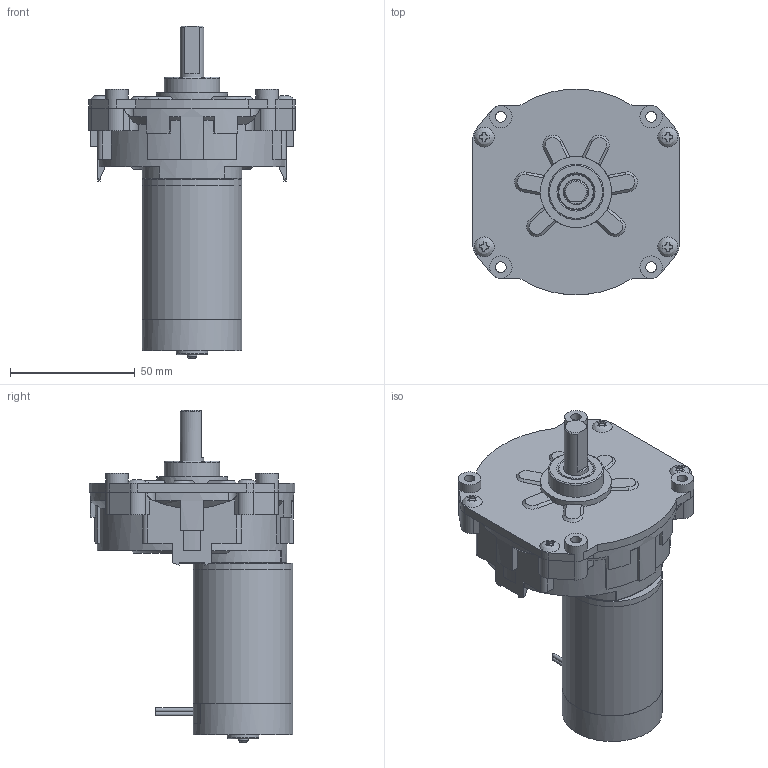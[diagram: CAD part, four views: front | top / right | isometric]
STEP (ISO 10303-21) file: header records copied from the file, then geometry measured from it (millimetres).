
FILE_DESCRIPTION(/* description */ (''),/* implementation_level */ '2;1');
FILE_NAME(/* name */ 'C:\Users\byjeong\Desktop\3D도면\SP45BL.stp',/* time_stamp */ '2015-03-31T15:44:38+09:00',/* author */ ('byjeong'),/* organization */ (''),/* preprocessor_version */ 'ST-DEVELOPER v15.6',/* originating_system */ 'Autodesk Inventor 2015',/* authorisation */ '');
FILE_SCHEMA (('AUTOMOTIVE_DESIGN { 1 0 10303 214 3 1 1 }'));
Length unit declared in the file: millimetre
Products named in the file (11): SP BOX ASSY; DC SP BOX; RM4TYPE_FRONT_HOUSING_; RM4TYPE_PIPE_HOUSING_pi40XL53.5; RM45TYPE_SHAFT; AS 1427 Z - 미터 M3.5 x 5; RM4TYPE_BRUSH_BRAKET_LEAD; RM4TYPE_REAR_HOUSING; REAR_HOUSING__ASS'Y_LEAD; RM45ㅁBL; SP BOX ASSY.ipt
Bounding box: 82.6 x 82.32 x 133.07 mm (x, y, z)
Volume: 99534.1 mm3; surface area: 71004.4 mm2
Topology: 12 solids, 13 shells, 727 faces, 1886 edges, 1229 vertices
Faces by surface type: plane 372, cylinder 192, cone 101, torus 32, bspline 28, sphere 2
Full cylindrical faces by diameter (mm): 1.6 x2, 2.7 x4, 2.8 x4, 3 x14, 3.05 x2, 3.132 x2, 3.4 x2, 3.5 x4, 3.6 x4, 3.7 x2, 3.969 x1, 4 x5, 4.3 x8, 4.5 x4, 5 x2, 6 x1, 6.1 x2, 6.5 x1, 6.65 x1, 9 x4, 9.5 x2, 9.54 x1, 10.5 x1, 12.5 x1, 12.7 x3, 14 x1, 14.3 x2, 14.5 x2, 16.6 x1, 17.6 x1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
Entity records: 22135 total; most frequent: CARTESIAN_POINT 5849, DIRECTION 3312, ORIENTED_EDGE 3236, EDGE_CURVE 1617, AXIS2_PLACEMENT_3D 1316, VERTEX_POINT 1130, EDGE_LOOP 926, FACE_OUTER_BOUND 686
